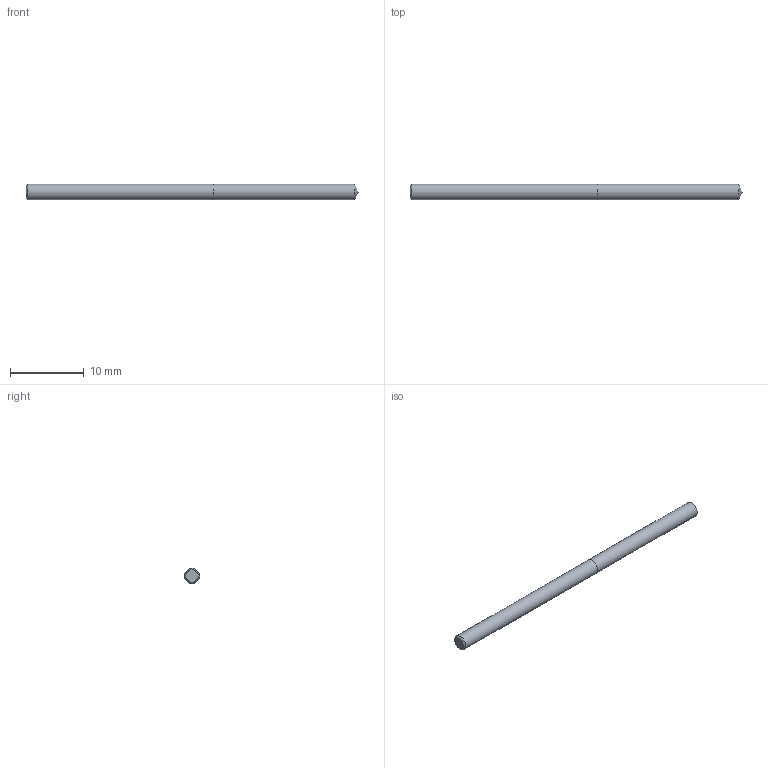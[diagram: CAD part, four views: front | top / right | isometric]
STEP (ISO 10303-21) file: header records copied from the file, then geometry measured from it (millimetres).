
FILE_DESCRIPTION (( 'STEP AP214' ), '1' );
FILE_NAME ('03-2387.STEP', '2022-06-03T07:05:12', ( 'USER' ), ( '' ), 'SwSTEP 2.0', 'SolidWorks 2018', '' );
FILE_SCHEMA (( 'AUTOMOTIVE_DESIGN' ));
Length unit declared in the file: inch
Products named in the file (1): 03-2387
Bounding box: 44.88 x 2.08 x 2.08 mm (x, y, z)
Volume: 151.8 mm3; surface area: 303.9 mm2
Topology: 2 solids, 2 shells, 7 faces, 11 edges, 7 vertices
Faces by surface type: plane 3, cylinder 2, cone 2
Full cylindrical faces by diameter (mm): 2.083 x2
Entity records: 214 total; most frequent: DIRECTION 26, CARTESIAN_POINT 18, AXIS2_PLACEMENT_3D 13, EDGE_LOOP 10, ORIENTED_EDGE 10, FACE_OUTER_BOUND 9, LENGTH_MEASURE_WITH_UNIT 7, DIMENSIONAL_EXPONENTS 7
